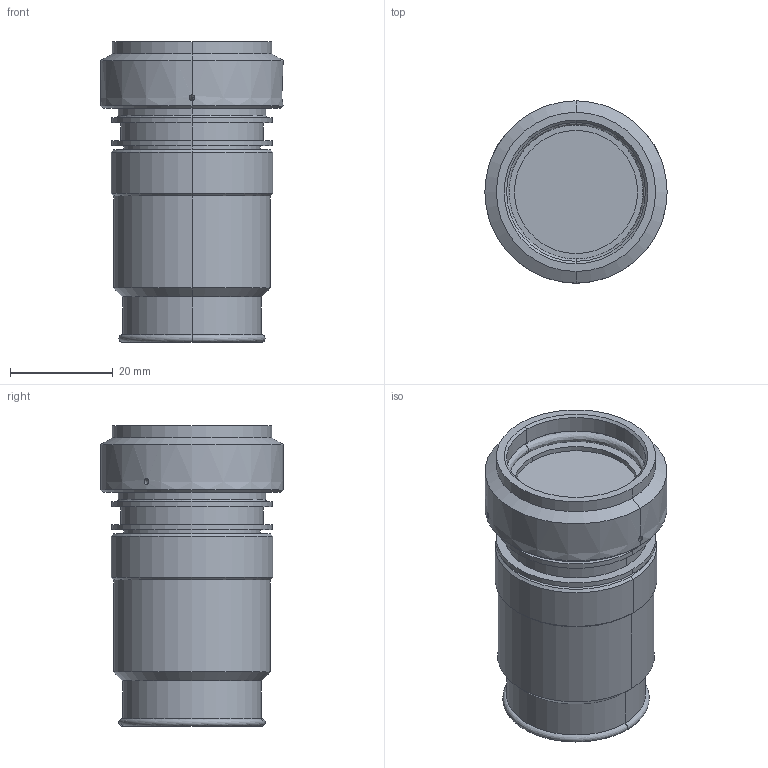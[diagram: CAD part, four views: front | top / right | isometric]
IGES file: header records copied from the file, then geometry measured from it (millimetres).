
Start section:  PTC IGES file: c-938692-000-o-3d.igs
Global section: file name: c-938692-000-o-3d.igs; native system: Creo Parametric by Parametric Technology Corporation; preprocessor: 2014090; author: workeradm; organization: Unknown; units: millimetre
Bounding box: 35.5 x 35.5 x 58.55 mm (x, y, z)
Surface area: 9812.2 mm2 (no closed solid volume)
Topology: 0 solids, 0 shells, 77 faces, 306 edges, 306 vertices
Faces by surface type: revolution 60, bspline 17
